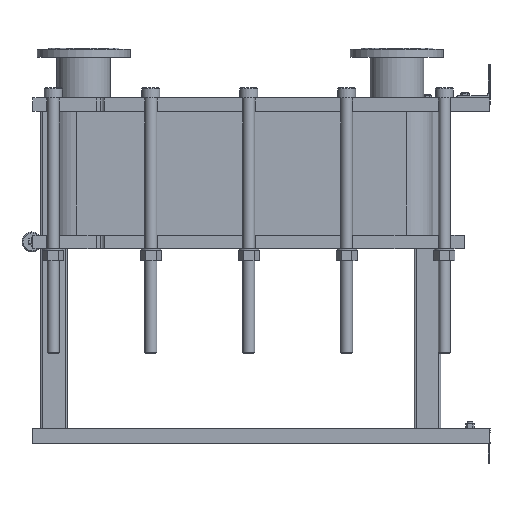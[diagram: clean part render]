
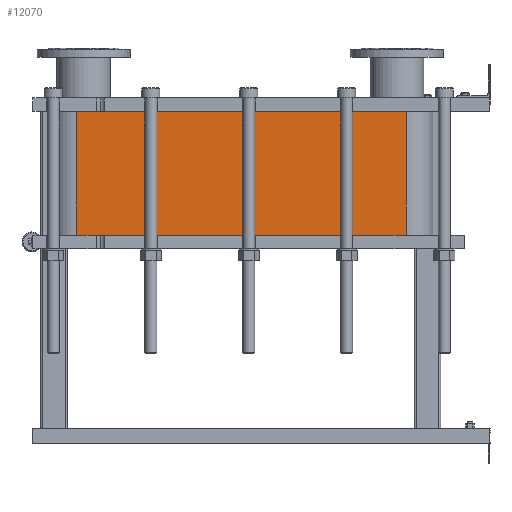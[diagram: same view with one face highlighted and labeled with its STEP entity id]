
A CAD part, left-side view. The second image highlights one B-rep face of the part: STEP entity #12070.
In plain terms, the highlighted planar face has unit normal (-1, 0, 0).
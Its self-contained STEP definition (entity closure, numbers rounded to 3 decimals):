
#1064=LINE('',#21140,#2164);
#1065=LINE('',#21144,#2165);
#1066=LINE('',#21146,#2166);
#1067=LINE('',#21147,#2167);
#2164=VECTOR('',#15790,10.);
#2165=VECTOR('',#15795,10.);
#2166=VECTOR('',#15796,10.);
#2167=VECTOR('',#15797,10.);
#3304=FACE_OUTER_BOUND('',#4091,.T.);
#4091=EDGE_LOOP('',(#9793,#9794,#9795,#9796));
#5677=VERTEX_POINT('',#21137);
#5678=VERTEX_POINT('',#21139);
#5679=VERTEX_POINT('',#21143);
#5680=VERTEX_POINT('',#21145);
#7118=EDGE_CURVE('',#5678,#5677,#1064,.T.);
#7120=EDGE_CURVE('',#5677,#5679,#1065,.T.);
#7121=EDGE_CURVE('',#5680,#5679,#1066,.T.);
#7122=EDGE_CURVE('',#5680,#5678,#1067,.T.);
#9793=ORIENTED_EDGE('',*,*,#7120,.T.);
#9794=ORIENTED_EDGE('',*,*,#7121,.F.);
#9795=ORIENTED_EDGE('',*,*,#7122,.T.);
#9796=ORIENTED_EDGE('',*,*,#7118,.T.);
#11441=PLANE('',#13191);
#12070=ADVANCED_FACE('',(#3304),#11441,.T.);
#13191=AXIS2_PLACEMENT_3D('',#21142,#15793,#15794);
#15790=DIRECTION('',(0.,0.,-1.));
#15793=DIRECTION('center_axis',(-1.,0.,0.));
#15794=DIRECTION('ref_axis',(0.,1.,0.));
#15795=DIRECTION('',(0.,-1.,0.));
#15796=DIRECTION('',(0.,0.,-1.));
#15797=DIRECTION('',(0.,1.,0.));
#21137=CARTESIAN_POINT('',(-248.152,1243.818,-372.6));
#21139=CARTESIAN_POINT('',(-248.152,1243.818,0.));
#21140=CARTESIAN_POINT('',(-248.152,1243.818,0.));
#21142=CARTESIAN_POINT('Origin',(-248.152,251.818,0.));
#21143=CARTESIAN_POINT('',(-248.152,251.818,-372.6));
#21144=CARTESIAN_POINT('',(-248.152,499.818,-372.6));
#21145=CARTESIAN_POINT('',(-248.152,251.818,0.));
#21146=CARTESIAN_POINT('',(-248.152,251.818,0.));
#21147=CARTESIAN_POINT('',(-248.152,251.818,0.));
